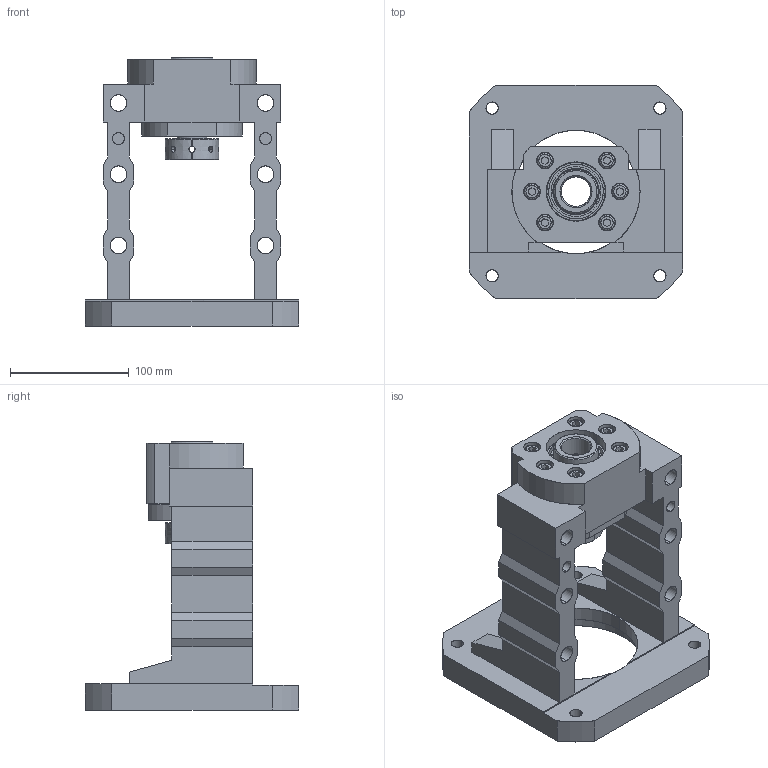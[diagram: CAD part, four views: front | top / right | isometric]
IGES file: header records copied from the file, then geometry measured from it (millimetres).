
Start section: SolidWorks IGES file using analytic representation for surfaces
Bounding box: 180 x 180 x 226 mm (x, y, z)
Surface area: 219725 mm2 (no closed solid volume)
Topology: 0 solids, 0 shells, 352 faces, 6088 edges, 6080 vertices
Faces by surface type: revolution 190, bspline 162
